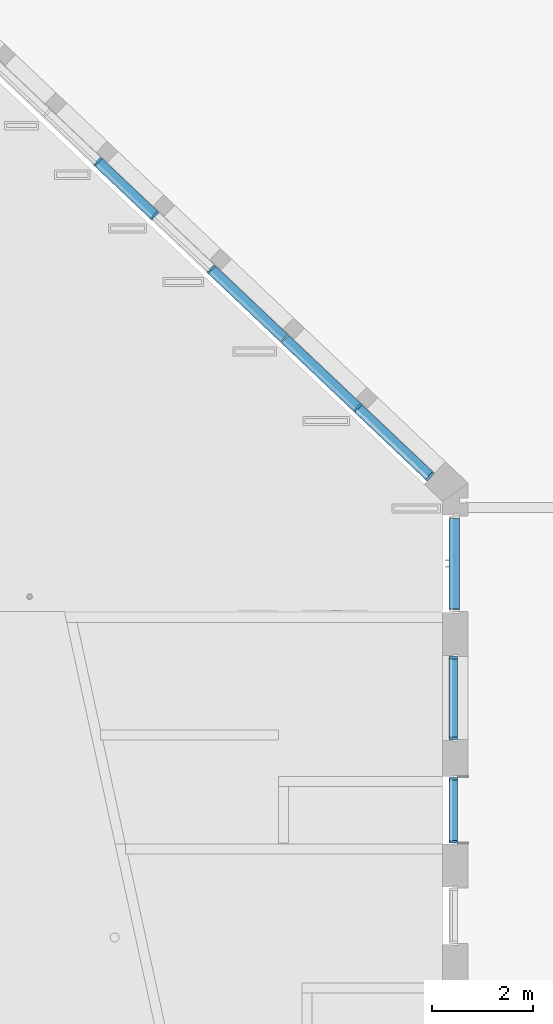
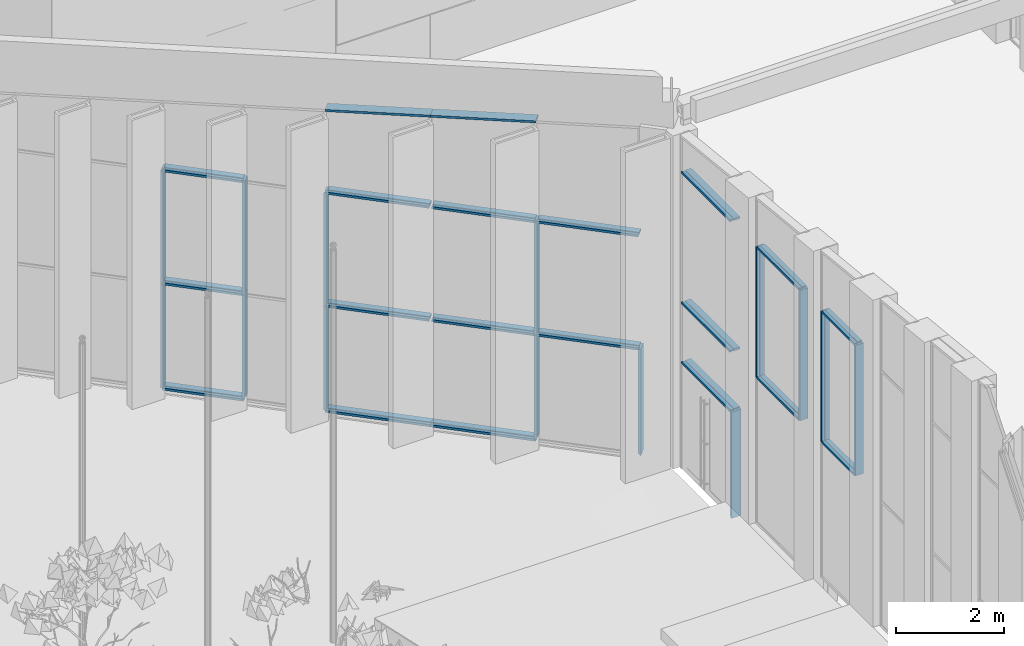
# One storey, part 7 of 246: 34 members, 4 elements without a shape of their own.
"""IFC2X3 building model written with IfcOpenShell, lengths in millimetres."""

from ifc_helpers import new_model, entity, si_unit, converted_unit, derived_unit, money_unit, direction, frame, origin_with_axes, place, context, subcontext, project, spatial, faceted_brep, source, transform, mapped, material, type_object, element, aggregate, save


model = new_model("IFC2X3")

# Units and contexts
model_context = context("Model", 3, precision=0.01, world=origin_with_axes(), true_north=direction((0.0, 1.0)))
body_context = subcontext(model_context, "Body", "Model", "MODEL_VIEW")
ifc_project = project(units=[si_unit("LENGTHUNIT", "METRE", prefix="MILLI"), si_unit("AREAUNIT", "SQUARE_METRE"), si_unit("VOLUMEUNIT", "CUBIC_METRE"), converted_unit("PLANEANGLEUNIT", "DEGREE", entity("IfcPlaneAngleMeasure", 0.0174532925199), si_unit("PLANEANGLEUNIT", "RADIAN"), dimensions=[0, 0, 0, 0, 0, 0, 0]), si_unit("SOLIDANGLEUNIT", "STERADIAN"), money_unit("EUR"), converted_unit("TIMEUNIT", "Year", entity("IfcTimeMeasure", 31556926.0), si_unit("TIMEUNIT", "SECOND"), dimensions=[0, 0, 1, 0, 0, 0, 0]), si_unit("MASSUNIT", "GRAM", prefix="KILO"), si_unit("THERMODYNAMICTEMPERATUREUNIT", "DEGREE_CELSIUS"), si_unit("LUMINOUSINTENSITYUNIT", "LUMEN"), si_unit("ENERGYUNIT", "JOULE", prefix="MEGA"), derived_unit("THERMALCONDUCTANCEUNIT", [(si_unit("POWERUNIT", "WATT"), 1), (si_unit("LENGTHUNIT", "METRE"), -1), (si_unit("THERMODYNAMICTEMPERATUREUNIT", "KELVIN"), -1)]), derived_unit("SPECIFICHEATCAPACITYUNIT", [(si_unit("ENERGYUNIT", "JOULE"), 1), (si_unit("MASSUNIT", "GRAM", prefix="KILO"), -1), (si_unit("THERMODYNAMICTEMPERATUREUNIT", "KELVIN"), -1)]), derived_unit("MASSDENSITYUNIT", [(si_unit("MASSUNIT", "GRAM", prefix="KILO"), 1), (si_unit("VOLUMEUNIT", "CUBIC_METRE"), -1)])], contexts=[model_context])

# Site, building, storey
site_placement = place(None, origin_with_axes())
site = spatial("IfcSite", under=ifc_project, at=site_placement, Name="L.Koidula tn 11b", CompositionType="ELEMENT")
building_placement = place(site_placement, origin_with_axes())
building = spatial("IfcBuilding", under=site, at=building_placement, Name="Rakvere Riigigümnaasium", CompositionType="ELEMENT")
storey_placement = place(building_placement, origin_with_axes())
storey = spatial("IfcBuildingStorey", under=building, at=storey_placement, Name="1.korrus 0,00", CompositionType="ELEMENT", Elevation=0.0)

# Curtain wall, members
curtain_wall_type = type_object("IfcCurtainWallType", Name="Curtain Wall Type", PredefinedType="NOTDEFINED")
curtain_wall_1_placement = place(storey_placement, frame((33997.0353268, 45217.6604975, 0.0), z_axis=(0.0, 0.0, 1.0), x_axis=(1.0, 0.0, 0.0)))
curtain_wall_1 = element("IfcCurtainWall", 1, at=curtain_wall_1_placement, inside=storey, type_object=curtain_wall_type, Name="KLF-02")
ifc_material = material(Name="Alumiiniumprofiil (RAL 7021)")
member_type_1 = type_object("IfcMemberType", Name="Mullion Frame 50 x 210", PredefinedType="MULLION")
shared_shape_1 = source(origin_with_axes(), body_context, "Body", "Brep", [
    faceted_brep([(12.0, -26.0, 2550.0), (12.0, 26.0, 2550.0), (25.0, 26.0, 2550.0), (25.0, 56.0, 2550.0), (-25.0, 56.0, 2550.0), (-25.0, 26.0, 2550.0), (-12.0, 26.0, 2550.0), (-12.0, -26.0, 2550.0), (-25.0, -26.0, 2550.0), (-25.0, -154.0, 2550.0), (25.0, -154.0, 2550.0), (25.0, -26.0, 2550.0), (12.0, -26.0, 0.0), (12.0, 26.0, 0.0), (25.0, 26.0, 0.0), (25.0, 56.0, 0.0), (-25.0, 56.0, 0.0), (-25.0, 26.0, 0.0), (-12.0, 26.0, 0.0), (-12.0, -26.0, 0.0), (-25.0, -26.0, 0.0), (-25.0, -154.0, 0.0), (25.0, -154.0, 0.0), (25.0, -26.0, 0.0)], [[[0, 1, 2, 3, 4, 5, 6, 7, 8, 9, 10, 11]], [[0, 12, 13, 1]], [[1, 13, 14, 2]], [[14, 15, 3, 2]], [[3, 15, 16, 4]], [[17, 5, 4, 16]], [[5, 17, 18, 6]], [[7, 6, 18, 19]], [[8, 7, 19, 20]], [[8, 20, 21, 9]], [[9, 21, 22, 10]], [[11, 10, 22, 23]], [[11, 23, 12, 0]], [[13, 12, 23, 22, 21, 20, 19, 18, 17, 16, 15, 14]]]),
])
member_1_placement = place(curtain_wall_1_placement, frame((-725.960229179, 687.736683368, 2400.00031279), z_axis=(0.0, 0.0, 1.0), x_axis=(0.725960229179, -0.687736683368, 0.0)))
member_1 = element("IfcMember", 2, at=member_1_placement, type_object=member_type_1, material=ifc_material, Name="KLF-07-Profiilid", ObjectType="MULLION", context=body_context, shape_type="MappedRepresentation", body=[
    mapped(shared_shape_1, transform((0.0, 0.0, 0.0), x_axis=(-1.0, 0.0, 0.0), y_axis=(0.0, -1.0, 0.0), z_axis=(0.0, 0.0, 1.0))),
])
member_2_placement = place(curtain_wall_1_placement, frame((-5880.27785635, 5570.66713528, 2400.00031279), z_axis=(0.0, 0.0, 1.0), x_axis=(0.725960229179, -0.687736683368, 0.0)))
member_2 = element("IfcMember", 3, at=member_2_placement, type_object=member_type_1, material=ifc_material, Name="KLF-19-Profiilid", ObjectType="MULLION", context=body_context, shape_type="MappedRepresentation", body=[
    mapped(shared_shape_1, transform((0.0, 0.0, 0.0), x_axis=(-1.0, 0.0, 0.0), y_axis=(0.0, -1.0, 0.0), z_axis=(0.0, 0.0, 1.0))),
])
member_3_placement = place(curtain_wall_1_placement, frame((-4755.03950112, 4504.67527606, 2400.00031279), z_axis=(0.0, 0.0, 1.0), x_axis=(0.725960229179, -0.687736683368, 0.0)))
member_3 = element("IfcMember", 4, at=member_3_placement, type_object=member_type_1, material=ifc_material, Name="KLF-16-Profiilid", ObjectType="MULLION", context=body_context, shape_type="MappedRepresentation", body=[
    mapped(shared_shape_1, transform((0.0, 0.0, 0.0), x_axis=(-1.0, 0.0, 0.0), y_axis=(0.0, -1.0, 0.0), z_axis=(0.0, 0.0, 1.0))),
])
member_4_placement = place(curtain_wall_1_placement, frame((-3629.80114589, 3438.68341684, 2400.00031279), z_axis=(0.0, 0.0, 1.0), x_axis=(0.725960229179, -0.687736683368, 0.0)))
member_4 = element("IfcMember", 5, at=member_4_placement, type_object=member_type_1, material=ifc_material, Name="KLF-13-Profiilid", ObjectType="MULLION", context=body_context, shape_type="MappedRepresentation", body=[
    mapped(shared_shape_1, transform((0.0, 0.0, 0.0), x_axis=(-1.0, 0.0, 0.0), y_axis=(0.0, -1.0, 0.0), z_axis=(0.0, 0.0, 1.0))),
])
shared_shape_2 = source(origin_with_axes(), body_context, "Body", "Brep", [
    faceted_brep([(12.0, -26.0, 2400.00031279), (12.0, 26.0, 2400.00031279), (25.0, 26.0, 2400.00031279), (25.0, 56.0, 2400.00031279), (-25.0, 56.0, 2400.00031279), (-25.0, 26.0, 2400.00031279), (-12.0, 26.0, 2400.00031279), (-12.0, -26.0, 2400.00031279), (-25.0, -26.0, 2400.00031279), (-25.0, -154.0, 2400.00031279), (25.0, -154.0, 2400.00031279), (25.0, -26.0, 2400.00031279), (12.0, -26.0, 50.0), (12.0, 26.0, 50.0), (25.0, 26.0, 50.0), (25.0, 56.0, 50.0), (-25.0, 56.0, 50.0), (-25.0, 26.0, 50.0), (-12.0, 26.0, 50.0), (-12.0, -26.0, 50.0), (-25.0, -26.0, 50.0), (-25.0, -154.0, 50.0), (25.0, -154.0, 50.0), (25.0, -26.0, 50.0)], [[[0, 1, 2, 3, 4, 5, 6, 7, 8, 9, 10, 11]], [[0, 12, 13, 1]], [[1, 13, 14, 2]], [[14, 15, 3, 2]], [[4, 3, 15, 16]], [[17, 5, 4, 16]], [[5, 17, 18, 6]], [[7, 6, 18, 19]], [[8, 7, 19, 20]], [[8, 20, 21, 9]], [[10, 9, 21, 22]], [[11, 10, 22, 23]], [[11, 23, 12, 0]], [[13, 12, 23, 22, 21, 20, 19, 18, 17, 16, 15, 14]]]),
])
member_5_placement = place(curtain_wall_1_placement, frame((-725.960229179, 687.736683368, 0.0), z_axis=(0.0, 0.0, 1.0), x_axis=(0.725960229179, -0.687736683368, 0.0)))
member_5 = element("IfcMember", 6, at=member_5_placement, type_object=member_type_1, material=ifc_material, Name="KLF-06-Profiilid", ObjectType="MULLION", context=body_context, shape_type="MappedRepresentation", body=[
    mapped(shared_shape_2, transform((0.0, 0.0, 0.0), x_axis=(-1.0, 0.0, 0.0), y_axis=(0.0, -1.0, 0.0), z_axis=(0.0, 0.0, 1.0))),
])
member_6_placement = place(curtain_wall_1_placement, frame((-5880.27785635, 5570.66713528, 0.0), z_axis=(0.0, 0.0, 1.0), x_axis=(0.725960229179, -0.687736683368, 0.0)))
member_6 = element("IfcMember", 7, at=member_6_placement, type_object=member_type_1, material=ifc_material, Name="KLF-18-Profiilid", ObjectType="MULLION", context=body_context, shape_type="MappedRepresentation", body=[
    mapped(shared_shape_2, transform((0.0, 0.0, 0.0), x_axis=(-1.0, 0.0, 0.0), y_axis=(0.0, -1.0, 0.0), z_axis=(0.0, 0.0, 1.0))),
])
member_7_placement = place(curtain_wall_1_placement, frame((-4755.03950112, 4504.67527606, 0.0), z_axis=(0.0, 0.0, 1.0), x_axis=(0.725960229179, -0.687736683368, 0.0)))
member_7 = element("IfcMember", 8, at=member_7_placement, type_object=member_type_1, material=ifc_material, Name="KLF-15-Profiilid", ObjectType="MULLION", context=body_context, shape_type="MappedRepresentation", body=[
    mapped(shared_shape_2, transform((0.0, 0.0, 0.0), x_axis=(-1.0, 0.0, 0.0), y_axis=(0.0, -1.0, 0.0), z_axis=(0.0, 0.0, 1.0))),
])
member_8_placement = place(curtain_wall_1_placement, frame((-3629.80114589, 3438.68341684, 0.0), z_axis=(0.0, 0.0, 1.0), x_axis=(0.725960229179, -0.687736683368, 0.0)))
member_8 = element("IfcMember", 9, at=member_8_placement, type_object=member_type_1, material=ifc_material, Name="KLF-12-Profiilid", ObjectType="MULLION", context=body_context, shape_type="MappedRepresentation", body=[
    mapped(shared_shape_2, transform((0.0, 0.0, 0.0), x_axis=(-1.0, 0.0, 0.0), y_axis=(0.0, -1.0, 0.0), z_axis=(0.0, 0.0, 1.0))),
])

# Curtain wall, member
curtain_wall_2_placement = place(storey_placement, frame((35166.0871538, 40185.4556279, 444.999899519), z_axis=(0.0, 0.0, 1.0), x_axis=(1.0, 0.0, 0.0)))
curtain_wall_2 = element("IfcCurtainWall", 10, at=curtain_wall_2_placement, inside=storey, type_object=curtain_wall_type, Name="KLF-03-02")
member_type_2 = type_object("IfcMemberType", Name="Boundary Frame 50 x 170", PredefinedType="MULLION")
shared_shape_3 = source(origin_with_axes(), body_context, "Body", "Brep", [
    faceted_brep([(37.0, -26.0, 2945.00000007), (37.0, 26.0, 2945.00000007), (50.0, 26.0, 2945.00000007), (50.0, 46.0, 2945.00000007), (0.0, 46.0, 2945.00000007), (0.0, -124.0, 2945.00000007), (50.0, -124.0, 2945.00000007), (50.0, -26.0, 2945.00000007), (37.0, -26.0, -7.00453028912e-08), (37.0, 26.0, -7.00453028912e-08), (50.0, 26.0, -7.00453028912e-08), (50.0, 46.0, -7.00453028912e-08), (0.0, 46.0, -7.00453028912e-08), (0.0, -124.0, -7.00453028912e-08), (50.0, -124.0, -7.00453028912e-08), (50.0, -26.0, -7.00453028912e-08)], [[[0, 1, 2, 3, 4, 5, 6, 7]], [[1, 0, 8, 9]], [[10, 2, 1, 9]], [[2, 10, 11, 3]], [[12, 4, 3, 11]], [[13, 5, 4, 12]], [[14, 6, 5, 13]], [[15, 7, 6, 14]], [[0, 7, 15, 8]], [[8, 15, 14, 13, 12, 11, 10, 9]]]),
])
member_9_placement = place(curtain_wall_2_placement, frame((0.0, -824.999893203, 3300.00011735), z_axis=(0.0, -2.80181597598e-09, 1.0), x_axis=(0.0, 1.0, 2.80181597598e-09)))
member_9 = element("IfcMember", 11, at=member_9_placement, type_object=member_type_2, material=ifc_material, Name="KLF-03-47-Profiilid", ObjectType="MULLION", context=body_context, shape_type="MappedRepresentation", body=[
    mapped(shared_shape_3, transform((0.0, 0.0, 0.0))),
])

curtain_wall_3_placement = place(storey_placement, frame((35166.0871538, 37960.3285917, 675.278539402), z_axis=(0.0, 0.0, 1.0), x_axis=(1.0, 0.0, 0.0)))
curtain_wall_3 = element("IfcCurtainWall", 12, at=curtain_wall_3_placement, inside=storey, type_object=curtain_wall_type, Name="KLF-03-03")
member_10_placement = place(curtain_wall_3_placement, frame((0.0, -650.126777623, 3070.00015014), z_axis=(0.0, -3.59955014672e-08, 1.0), x_axis=(0.0, 1.0, 3.59955014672e-08)))
member_10 = element("IfcMember", 13, at=member_10_placement, type_object=member_type_2, material=ifc_material, Name="KLF-03-92-Profiilid", ObjectType="MULLION", context=body_context, shape_type="MappedRepresentation", body=[
    mapped(shared_shape_3, transform((0.0, 0.0, 0.0))),
])

# Member
member_type_3 = type_object("IfcMemberType", Name="Transom Frame 50 x 210", PredefinedType="MULLION")
shared_shape_4 = source(origin_with_axes(), body_context, "Body", "Brep", [
    faceted_brep([(12.0, -26.0, 1525.0), (12.0, 26.0, 1525.0), (25.0, 26.0, 1525.0), (25.0, 56.0, 1525.0), (-25.0, 56.0, 1525.0), (-25.0, 26.0, 1525.0), (-12.0, 26.0, 1525.0), (-12.0, -26.0, 1525.0), (-25.0, -26.0, 1525.0), (-25.0, -154.0, 1525.0), (25.0, -154.0, 1525.0), (25.0, -26.0, 1525.0), (12.0, -26.0, 25.0), (12.0, 26.0, 25.0), (25.0, 26.0, 25.0), (25.0, 56.0, 25.0), (-25.0, 56.0, 25.0), (-25.0, 26.0, 25.0), (-12.0, 26.0, 25.0), (-12.0, -26.0, 25.0), (-25.0, -26.0, 25.0), (-25.0, -154.0, 25.0), (25.0, -154.0, 25.0), (25.0, -26.0, 25.0)], [[[0, 1, 2, 3, 4, 5, 6, 7, 8, 9, 10, 11]], [[0, 12, 13, 1]], [[1, 13, 14, 2]], [[14, 15, 3, 2]], [[4, 3, 15, 16]], [[17, 5, 4, 16]], [[5, 17, 18, 6]], [[7, 6, 18, 19]], [[8, 7, 19, 20]], [[8, 20, 21, 9]], [[10, 9, 21, 22]], [[11, 10, 22, 23]], [[11, 23, 12, 0]], [[13, 12, 23, 22, 21, 20, 19, 18, 17, 16, 15, 14]]]),
])
member_11_placement = place(curtain_wall_1_placement, frame((-4755.03950112, 4504.67527606, 4950.00031279), z_axis=(-0.725960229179, 0.687736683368, 0.0), x_axis=(0.0, 0.0, 1.0)))
member_11 = element("IfcMember", 14, at=member_11_placement, type_object=member_type_3, material=ifc_material, Name="KLF-43-Profiilid", ObjectType="MULLION", context=body_context, shape_type="MappedRepresentation", body=[
    mapped(shared_shape_4, transform((0.0, 0.0, 0.0), x_axis=(-1.0, 0.0, 0.0), y_axis=(0.0, -1.0, 0.0), z_axis=(0.0, 0.0, 1.0))),
])

member_12_placement = place(curtain_wall_1_placement, frame((-4755.03950112, 4504.67527606, 2400.00031279), z_axis=(-0.725960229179, 0.687736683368, 0.0), x_axis=(0.0, 0.0, 1.0)))
member_12 = element("IfcMember", 15, at=member_12_placement, type_object=member_type_3, material=ifc_material, Name="KLF-25-Profiilid", ObjectType="MULLION", context=body_context, shape_type="MappedRepresentation", body=[
    mapped(shared_shape_4, transform((0.0, 0.0, 0.0), x_axis=(-1.0, 0.0, 0.0), y_axis=(0.0, -1.0, 0.0), z_axis=(0.0, 0.0, 1.0))),
])

shared_shape_5 = source(origin_with_axes(), body_context, "Body", "Brep", [
    faceted_brep([(12.0, -26.0, 1975.0), (12.0, 26.0, 1975.0), (25.0, 26.0, 1975.0), (25.0, 56.0, 1975.0), (-25.0, 56.0, 1975.0), (-25.0, 26.0, 1975.0), (-12.0, 26.0, 1975.0), (-12.0, -26.0, 1975.0), (-25.0, -26.0, 1975.0), (-25.0, -154.0, 1975.0), (25.0, -154.0, 1975.0), (25.0, -26.0, 1975.0), (12.0, -26.0, 25.0), (12.0, 26.0, 25.0), (25.0, 26.0, 25.0), (25.0, 56.0, 25.0), (-25.0, 56.0, 25.0), (-25.0, 26.0, 25.0), (-12.0, 26.0, 25.0), (-12.0, -26.0, 25.0), (-25.0, -26.0, 25.0), (-25.0, -154.0, 25.0), (25.0, -154.0, 25.0), (25.0, -26.0, 25.0)], [[[0, 1, 2, 3, 4, 5, 6, 7, 8, 9, 10, 11]], [[0, 12, 13, 1]], [[1, 13, 14, 2]], [[14, 15, 3, 2]], [[4, 3, 15, 16]], [[17, 5, 4, 16]], [[5, 17, 18, 6]], [[7, 6, 18, 19]], [[8, 7, 19, 20]], [[8, 20, 21, 9]], [[10, 9, 21, 22]], [[11, 10, 22, 23]], [[11, 23, 12, 0]], [[13, 12, 23, 22, 21, 20, 19, 18, 17, 16, 15, 14]]]),
])
member_13_placement = place(curtain_wall_1_placement, frame((-2177.88068754, 2063.21005011, 4950.00031279), z_axis=(-0.725960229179, 0.687736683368, 0.0), x_axis=(0.0, 0.0, 1.0)))
member_13 = element("IfcMember", 16, at=member_13_placement, type_object=member_type_3, material=ifc_material, Name="KLF-41-Profiilid", ObjectType="MULLION", context=body_context, shape_type="MappedRepresentation", body=[
    mapped(shared_shape_5, transform((0.0, 0.0, 0.0), x_axis=(-1.0, 0.0, 0.0), y_axis=(0.0, -1.0, 0.0), z_axis=(0.0, 0.0, 1.0))),
])

member_14_placement = place(curtain_wall_1_placement, frame((-725.960229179, 687.736683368, 4950.00031279), z_axis=(-0.725960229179, 0.687736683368, 0.0), x_axis=(0.0, 0.0, 1.0)))
member_14 = element("IfcMember", 17, at=member_14_placement, type_object=member_type_3, material=ifc_material, Name="KLF-40-Profiilid", ObjectType="MULLION", context=body_context, shape_type="MappedRepresentation", body=[
    mapped(shared_shape_5, transform((0.0, 0.0, 0.0), x_axis=(-1.0, 0.0, 0.0), y_axis=(0.0, -1.0, 0.0), z_axis=(0.0, 0.0, 1.0))),
])

member_15_placement = place(curtain_wall_1_placement, frame((-2177.88068754, 2063.21005011, 2400.00031279), z_axis=(-0.725960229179, 0.687736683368, 0.0), x_axis=(0.0, 0.0, 1.0)))
member_15 = element("IfcMember", 18, at=member_15_placement, type_object=member_type_3, material=ifc_material, Name="KLF-23-Profiilid", ObjectType="MULLION", context=body_context, shape_type="MappedRepresentation", body=[
    mapped(shared_shape_5, transform((0.0, 0.0, 0.0), x_axis=(-1.0, 0.0, 0.0), y_axis=(0.0, -1.0, 0.0), z_axis=(0.0, 0.0, 1.0))),
])

member_16_placement = place(curtain_wall_1_placement, frame((-725.960229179, 687.736683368, 2400.00031279), z_axis=(-0.725960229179, 0.687736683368, 0.0), x_axis=(0.0, 0.0, 1.0)))
member_16 = element("IfcMember", 19, at=member_16_placement, type_object=member_type_3, material=ifc_material, Name="KLF-22-Profiilid", ObjectType="MULLION", context=body_context, shape_type="MappedRepresentation", body=[
    mapped(shared_shape_5, transform((0.0, 0.0, 0.0), x_axis=(-1.0, 0.0, 0.0), y_axis=(0.0, -1.0, 0.0), z_axis=(0.0, 0.0, 1.0))),
])

# Curtain wall, members
curtain_wall_4_placement = place(storey_placement, frame((35176.0871233, 42850.4555755, -0.000136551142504), z_axis=(0.0, 0.0, 1.0), x_axis=(1.0, 0.0, 0.0)))
curtain_wall_4 = element("IfcCurtainWall", 20, at=curtain_wall_4_placement, inside=storey, type_object=curtain_wall_type, Name="KLF-03-01")
shared_shape_6 = source(origin_with_axes(), body_context, "Body", "Brep", [
    faceted_brep([(-12.0, -26.0, 1849.99983214), (-25.0, -26.0, 1849.99983214), (-25.0, -154.0, 1849.99983214), (25.0, -154.0, 1849.99983214), (25.0, -26.0, 1849.99983214), (12.0, -26.0, 1849.99983214), (12.0, 26.0, 1849.99983214), (25.0, 26.0, 1849.99983214), (25.0, 56.0, 1849.99983214), (-25.0, 56.0, 1849.99983214), (-25.0, 26.0, 1849.99983214), (-12.0, 26.0, 1849.99983214), (-12.0, -26.0, 50.0), (-25.0, -26.0, 50.0), (-25.0, -154.0, 50.0), (25.0, -154.0, 50.0), (25.0, -26.0, 50.0), (12.0, -26.0, 50.0), (12.0, 26.0, 50.0), (25.0, 26.0, 50.0), (25.0, 56.0, 50.0), (-25.0, 56.0, 50.0), (-25.0, 26.0, 50.0), (-12.0, 26.0, 50.0)], [[[0, 1, 2, 3, 4, 5, 6, 7, 8, 9, 10, 11]], [[1, 0, 12, 13]], [[1, 13, 14, 2]], [[2, 14, 15, 3]], [[4, 3, 15, 16]], [[4, 16, 17, 5]], [[5, 17, 18, 6]], [[7, 6, 18, 19]], [[19, 20, 8, 7]], [[8, 20, 21, 9]], [[22, 10, 9, 21]], [[11, 10, 22, 23]], [[0, 11, 23, 12]], [[23, 22, 21, 20, 19, 18, 17, 16, 15, 14, 13, 12]]]),
])
member_17_placement = place(curtain_wall_4_placement, frame((0.0, 949.999916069, 6690.00012036), z_axis=(0.0, -1.0, 0.0), x_axis=(0.0, 0.0, 1.0)))
member_17 = element("IfcMember", 21, at=member_17_placement, type_object=member_type_3, material=ifc_material, Name="KLF-03-01-Profiilid", ObjectType="MULLION", context=body_context, shape_type="MappedRepresentation", body=[
    mapped(shared_shape_6, transform((0.0, 0.0, 0.0))),
])
member_18_placement = place(curtain_wall_4_placement, frame((0.0, 949.999916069, 3745.00012036), z_axis=(0.0, -1.0, 0.0), x_axis=(0.0, 0.0, 1.0)))
member_18 = element("IfcMember", 22, at=member_18_placement, type_object=member_type_3, material=ifc_material, Name="KLF-03-01-Profiilid", ObjectType="MULLION", context=body_context, shape_type="MappedRepresentation", body=[
    mapped(shared_shape_6, transform((0.0, 0.0, 0.0))),
])
member_19_placement = place(curtain_wall_4_placement, frame((0.0, 949.999916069, 2400.00012036), z_axis=(0.0, -1.0, 0.0), x_axis=(0.0, 0.0, 1.0)))
member_19 = element("IfcMember", 23, at=member_19_placement, type_object=member_type_3, material=ifc_material, Name="KLF-03-01-Profiilid", ObjectType="MULLION", context=body_context, shape_type="MappedRepresentation", body=[
    mapped(shared_shape_6, transform((0.0, 0.0, 0.0))),
])

# Member
shared_shape_7 = source(origin_with_axes(), body_context, "Body", "Brep", [
    faceted_brep([(-37.0, -26.0, 2945.0), (-50.0, -26.0, 2945.0), (-50.0, -124.0, 2945.0), (0.0, -124.0, 2945.0), (0.0, 46.0, 2945.0), (-50.0, 46.0, 2945.0), (-50.0, 26.0, 2945.0), (-37.0, 26.0, 2945.0), (-37.0, -26.0, 0.0), (-50.0, -26.0, 0.0), (-50.0, -124.0, 0.0), (0.0, -124.0, 0.0), (0.0, 46.0, 0.0), (-50.0, 46.0, 0.0), (-50.0, 26.0, 0.0), (-37.0, 26.0, 0.0)], [[[0, 1, 2, 3, 4, 5, 6, 7]], [[0, 8, 9, 1]], [[9, 10, 2, 1]], [[10, 11, 3, 2]], [[11, 12, 4, 3]], [[12, 13, 5, 4]], [[6, 5, 13, 14]], [[14, 15, 7, 6]], [[7, 15, 8, 0]], [[8, 15, 14, 13, 12, 11, 10, 9]]]),
])
member_20_placement = place(curtain_wall_2_placement, frame((0.0, 824.999897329, 3300.00011735), z_axis=(0.0, 0.0, 1.0), x_axis=(0.0, 1.0, 0.0)))
member_20 = element("IfcMember", 24, at=member_20_placement, type_object=member_type_2, material=ifc_material, Name="KLF-03-51-Profiilid", ObjectType="MULLION", context=body_context, shape_type="MappedRepresentation", body=[
    mapped(shared_shape_7, transform((0.0, 0.0, 0.0))),
])

member_21_placement = place(curtain_wall_3_placement, frame((0.0, 650.126883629, 3070.00015014), z_axis=(0.0, 0.0, 1.0), x_axis=(0.0, 1.0, 0.0)))
member_21 = element("IfcMember", 25, at=member_21_placement, type_object=member_type_2, material=ifc_material, Name="KLF-03-96-Profiilid", ObjectType="MULLION", context=body_context, shape_type="MappedRepresentation", body=[
    mapped(shared_shape_7, transform((0.0, 0.0, 0.0))),
])

shared_shape_8 = source(origin_with_axes(), body_context, "Body", "Brep", [
    faceted_brep([(12.0, -26.0, 1975.0), (12.0, 26.0, 1975.0), (25.0, 26.0, 1975.0), (25.0, 56.0, 1975.0), (-25.0, 56.0, 1975.0), (-25.0, 26.0, 1975.0), (-12.0, 26.0, 1975.0), (-12.0, -26.0, 1975.0), (-25.0, -26.0, 1975.0), (-25.0, -154.0, 1975.0), (25.0, -154.0, 1975.0), (25.0, -26.0, 1975.0), (12.0, -26.0, 50.0), (12.0, 26.0, 50.0), (25.0, 26.0, 50.0), (25.0, 56.0, 50.0), (-25.0, 56.0, 50.0), (-25.0, 26.0, 50.0), (-12.0, 26.0, 50.0), (-12.0, -26.0, 50.0), (-25.0, -26.0, 50.0), (-25.0, -154.0, 50.0), (25.0, -154.0, 50.0), (25.0, -26.0, 50.0)], [[[0, 1, 2, 3, 4, 5, 6, 7, 8, 9, 10, 11]], [[0, 12, 13, 1]], [[1, 13, 14, 2]], [[14, 15, 3, 2]], [[4, 3, 15, 16]], [[17, 5, 4, 16]], [[5, 17, 18, 6]], [[7, 6, 18, 19]], [[8, 7, 19, 20]], [[8, 20, 21, 9]], [[10, 9, 21, 22]], [[11, 10, 22, 23]], [[11, 23, 12, 0]], [[13, 12, 23, 22, 21, 20, 19, 18, 17, 16, 15, 14]]]),
])
member_22_placement = place(curtain_wall_1_placement, frame((725.960229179, -687.736683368, 4950.00031279), z_axis=(-0.725960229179, 0.687736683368, 0.0), x_axis=(0.0, 0.0, 1.0)))
member_22 = element("IfcMember", 26, at=member_22_placement, type_object=member_type_3, material=ifc_material, Name="KLF-39-Profiilid", ObjectType="MULLION", context=body_context, shape_type="MappedRepresentation", body=[
    mapped(shared_shape_8, transform((0.0, 0.0, 0.0), x_axis=(-1.0, 0.0, 0.0), y_axis=(0.0, -1.0, 0.0), z_axis=(0.0, 0.0, 1.0))),
])

member_23_placement = place(curtain_wall_1_placement, frame((725.960229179, -687.736683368, 2400.00031279), z_axis=(-0.725960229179, 0.687736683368, 0.0), x_axis=(0.0, 0.0, 1.0)))
member_23 = element("IfcMember", 27, at=member_23_placement, type_object=member_type_3, material=ifc_material, Name="KLF-21-Profiilid", ObjectType="MULLION", context=body_context, shape_type="MappedRepresentation", body=[
    mapped(shared_shape_8, transform((0.0, 0.0, 0.0), x_axis=(-1.0, 0.0, 0.0), y_axis=(0.0, -1.0, 0.0), z_axis=(0.0, 0.0, 1.0))),
])

member_type_4 = type_object("IfcMemberType", Name="Boundary Frame 50 x 210", PredefinedType="MULLION")
shared_shape_9 = source(origin_with_axes(), body_context, "Body", "Brep", [
    faceted_brep([(-37.0, -26.0, 1550.0), (-50.0, -26.0, 1550.0), (-50.0, -154.0, 1550.0), (0.0, -154.0, 1550.0), (0.0, 56.0, 1550.0), (-50.0, 56.0, 1550.0), (-50.0, 26.0, 1550.0), (-37.0, 26.0, 1550.0), (-37.0, -26.0, 0.0), (-50.0, -26.0, 0.0), (-50.0, -154.0, 0.0), (0.0, -154.0, 0.0), (0.0, 56.0, 0.0), (-50.0, 56.0, 0.0), (-50.0, 26.0, 0.0), (-37.0, 26.0, 0.0)], [[[0, 1, 2, 3, 4, 5, 6, 7]], [[0, 8, 9, 1]], [[9, 10, 2, 1]], [[10, 11, 3, 2]], [[11, 12, 4, 3]], [[12, 13, 5, 4]], [[6, 5, 13, 14]], [[14, 15, 7, 6]], [[7, 15, 8, 0]], [[8, 15, 14, 13, 12, 11, 10, 9]]]),
])
member_24_placement = place(curtain_wall_1_placement, frame((-4755.03950112, 4504.67527606, 0.0), z_axis=(-0.725960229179, 0.687736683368, 0.0), x_axis=(0.0, 0.0, 1.0)))
member_24 = element("IfcMember", 28, at=member_24_placement, type_object=member_type_4, material=ifc_material, Name="KLF-93-Profiilid", ObjectType="MULLION", context=body_context, shape_type="MappedRepresentation", body=[
    mapped(shared_shape_9, transform((0.0, 0.0, 0.0), x_axis=(-1.0, 0.0, 0.0), y_axis=(0.0, -1.0, 0.0), z_axis=(0.0, 0.0, 1.0))),
])

shared_shape_10 = source(origin_with_axes(), body_context, "Body", "Brep", [
    faceted_brep([(-37.0, -26.0, 2000.0), (-50.0, -26.0, 2000.0), (-50.0, -154.0, 2000.0), (0.0, -154.0, 2000.0), (0.0, 56.0, 2000.0), (-50.0, 56.0, 2000.0), (-50.0, 26.0, 2000.0), (-37.0, 26.0, 2000.0), (-37.0, -26.0, 0.0), (-50.0, -26.0, 0.0), (-50.0, -154.0, 0.0), (0.0, -154.0, 0.0), (0.0, 56.0, 0.0), (-50.0, 56.0, 0.0), (-50.0, 26.0, 0.0), (-37.0, 26.0, 0.0)], [[[0, 1, 2, 3, 4, 5, 6, 7]], [[0, 8, 9, 1]], [[9, 10, 2, 1]], [[10, 11, 3, 2]], [[11, 12, 4, 3]], [[12, 13, 5, 4]], [[6, 5, 13, 14]], [[14, 15, 7, 6]], [[7, 15, 8, 0]], [[8, 15, 14, 13, 12, 11, 10, 9]]]),
])
member_25_placement = place(curtain_wall_1_placement, frame((-2177.88068754, 2063.21005011, 0.0), z_axis=(-0.725960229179, 0.687736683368, 0.0), x_axis=(0.0, 0.0, 1.0)))
member_25 = element("IfcMember", 29, at=member_25_placement, type_object=member_type_4, material=ifc_material, Name="KLF-91-Profiilid", ObjectType="MULLION", context=body_context, shape_type="MappedRepresentation", body=[
    mapped(shared_shape_10, transform((0.0, 0.0, 0.0), x_axis=(-1.0, 0.0, 0.0), y_axis=(0.0, -1.0, 0.0), z_axis=(0.0, 0.0, 1.0))),
])

member_26_placement = place(curtain_wall_1_placement, frame((-725.960229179, 687.736683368, 0.0), z_axis=(-0.725960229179, 0.687736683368, 0.0), x_axis=(0.0, 0.0, 1.0)))
member_26 = element("IfcMember", 30, at=member_26_placement, type_object=member_type_4, material=ifc_material, Name="KLF-90-Profiilid", ObjectType="MULLION", context=body_context, shape_type="MappedRepresentation", body=[
    mapped(shared_shape_10, transform((0.0, 0.0, 0.0), x_axis=(-1.0, 0.0, 0.0), y_axis=(0.0, -1.0, 0.0), z_axis=(0.0, 0.0, 1.0))),
])

shared_shape_11 = source(origin_with_axes(), body_context, "Body", "Brep", [
    faceted_brep([(37.0, -26.0, 2400.00031279), (37.0, 26.0, 2400.00031279), (50.0, 26.0, 2400.00031279), (50.0, 56.0, 2400.00031279), (0.0, 56.0, 2400.00031279), (0.0, -154.0, 2400.00031279), (50.0, -154.0, 2400.00031279), (50.0, -26.0, 2400.00031279), (37.0, -26.0, 37.0), (37.0, 26.0, 37.0), (50.0, 26.0, 50.0), (50.0, 56.0, 50.0), (0.0, 56.0, 0.0), (0.0, -154.0, 0.0), (50.0, -154.0, 50.0), (50.0, -26.0, 50.0)], [[[0, 1, 2, 3, 4, 5, 6, 7]], [[1, 0, 8, 9]], [[10, 2, 1, 9]], [[2, 10, 11, 3]], [[4, 3, 11, 12]], [[5, 4, 12, 13]], [[6, 5, 13, 14]], [[15, 7, 6, 14]], [[0, 7, 15, 8]], [[8, 15, 14, 13, 12, 11, 10, 9]]]),
])
member_27_placement = place(curtain_wall_1_placement, frame((725.960229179, -687.736683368, 0.0), z_axis=(0.0, 0.0, 1.0), x_axis=(0.725960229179, -0.687736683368, 0.0)))
member_27 = element("IfcMember", 31, at=member_27_placement, type_object=member_type_4, material=ifc_material, Name="KLF-29-Profiilid", ObjectType="MULLION", context=body_context, shape_type="MappedRepresentation", body=[
    mapped(shared_shape_11, transform((0.0, 0.0, 0.0), x_axis=(-1.0, 0.0, 0.0), y_axis=(0.0, -1.0, 0.0), z_axis=(0.0, 0.0, 1.0))),
])

member_28_placement = place(curtain_wall_4_placement, frame((0.0, -949.999876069, 0.0), z_axis=(0.0, 0.0, 1.0), x_axis=(0.0, 1.0, 0.0)))
member_28 = element("IfcMember", 32, at=member_28_placement, type_object=member_type_4, material=ifc_material, Name="KLF-03-12-Profiilid", ObjectType="MULLION", context=body_context, shape_type="MappedRepresentation", body=[
    mapped(shared_shape_11, transform((0.0, 0.0, 0.0))),
])

aggregate(curtain_wall_4, [member_17, member_18, member_19, member_28])

shared_shape_12 = source(origin_with_axes(), body_context, "Body", "Brep", [
    faceted_brep([(-37.0, -26.0, 2009.69803771), (-50.0, -26.0, 2009.69803771), (-50.0, -154.0, 2009.69803771), (0.0, -154.0, 2009.69803771), (0.0, 56.0, 2009.69803771), (-50.0, 56.0, 2009.69803771), (-50.0, 26.0, 2009.69803771), (-37.0, 26.0, 2009.69803771), (-37.0, -26.0, 0.0), (-50.0, -26.0, 0.0), (-50.0, -154.0, 0.0), (0.0, -154.0, 0.0), (0.0, 56.0, 0.0), (-50.0, 56.0, 0.0), (-50.0, 26.0, 0.0), (-37.0, 26.0, 0.0)], [[[0, 1, 2, 3, 4, 5, 6, 7]], [[0, 8, 9, 1]], [[9, 10, 2, 1]], [[10, 11, 3, 2]], [[11, 12, 4, 3]], [[12, 13, 5, 4]], [[6, 5, 13, 14]], [[14, 15, 7, 6]], [[7, 15, 8, 0]], [[8, 15, 14, 13, 12, 11, 10, 9]]]),
])
member_29_placement = place(curtain_wall_1_placement, frame((-2177.88068754, 2063.21005011, 7034.97201098), z_axis=(0.722457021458, -0.68441792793, 0.0981221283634), x_axis=(0.0712327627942, -0.0674821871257, -0.995174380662)))
member_29 = element("IfcMember", 33, at=member_29_placement, type_object=member_type_4, material=ifc_material, Name="KLF-25-Profiilid", ObjectType="MULLION", context=body_context, shape_type="MappedRepresentation", body=[
    mapped(shared_shape_12, transform((0.0, 0.0, 0.0), x_axis=(-1.0, 0.0, 0.0), y_axis=(0.0, -1.0, 0.0), z_axis=(0.0, 0.0, 1.0))),
])

member_30_placement = place(curtain_wall_1_placement, frame((-3629.80114589, 3438.68341684, 6837.77616216), z_axis=(0.722457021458, -0.68441792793, 0.0981221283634), x_axis=(0.0712327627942, -0.0674821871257, -0.995174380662)))
member_30 = element("IfcMember", 34, at=member_30_placement, type_object=member_type_4, material=ifc_material, Name="KLF-24-Profiilid", ObjectType="MULLION", context=body_context, shape_type="MappedRepresentation", body=[
    mapped(shared_shape_12, transform((0.0, 0.0, 0.0), x_axis=(-1.0, 0.0, 0.0), y_axis=(0.0, -1.0, 0.0), z_axis=(0.0, 0.0, 1.0))),
])

aggregate(curtain_wall_1, [member_5, member_1, member_2, member_6, member_3, member_7, member_4, member_8, member_11, member_13, member_14, member_22, member_12, member_15, member_16, member_23, member_24, member_25, member_26, member_27, member_29, member_30])

member_type_5 = type_object("IfcMemberType", Name="Transom Frame 50 x 170", PredefinedType="MULLION")
shared_shape_13 = source(origin_with_axes(), body_context, "Body", "Brep", [
    faceted_brep([(-12.0, -26.0, 1599.99979046), (-25.0, -26.0, 1599.99979046), (-25.0, -124.0, 1599.99979018), (25.0, -124.0, 1599.99979018), (25.0, -26.0, 1599.99979046), (12.0, -26.0, 1599.99979046), (12.0, 26.0, 1599.9997906), (25.0, 26.0, 1599.9997906), (25.0, 46.0, 1599.99979066), (-25.0, 46.0, 1599.99979066), (-25.0, 26.0, 1599.9997906), (-12.0, 26.0, 1599.9997906), (-12.0, -26.0, 50.0), (-25.0, -26.0, 50.0), (-25.0, -124.0, 50.0), (25.0, -124.0, 50.0), (25.0, -26.0, 50.0), (12.0, -26.0, 50.0), (12.0, 26.0, 50.0), (25.0, 26.0, 50.0), (25.0, 46.0, 50.0), (-25.0, 46.0, 50.0), (-25.0, 26.0, 50.0), (-12.0, 26.0, 50.0)], [[[0, 1, 2, 3, 4, 5, 6, 7, 8, 9, 10, 11]], [[1, 0, 12, 13]], [[1, 13, 14, 2]], [[2, 14, 15, 3]], [[4, 3, 15, 16]], [[4, 16, 17, 5]], [[5, 17, 18, 6]], [[7, 6, 18, 19]], [[19, 20, 8, 7]], [[8, 20, 21, 9]], [[22, 10, 9, 21]], [[11, 10, 22, 23]], [[0, 11, 23, 12]], [[23, 22, 21, 20, 19, 18, 17, 16, 15, 14, 13, 12]]]),
])
member_31_placement = place(curtain_wall_2_placement, frame((0.0, 824.999897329, 3300.00011735), z_axis=(0.0, -1.0, 0.0), x_axis=(0.0, 0.0, 1.0)))
member_31 = element("IfcMember", 35, at=member_31_placement, type_object=member_type_5, material=ifc_material, Name="KLF-03-02-Profiilid", ObjectType="MULLION", context=body_context, shape_type="MappedRepresentation", body=[
    mapped(shared_shape_13, transform((0.0, 0.0, 0.0))),
])

member_32_placement = place(curtain_wall_2_placement, frame((0.0, 824.999897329, 6245.00011735), z_axis=(0.0, -1.0, 0.0), x_axis=(0.0, 0.0, 1.0)))
member_32 = element("IfcMember", 36, at=member_32_placement, type_object=member_type_5, material=ifc_material, Name="KLF-03-02-Profiilid", ObjectType="MULLION", context=body_context, shape_type="MappedRepresentation", body=[
    mapped(shared_shape_13, transform((0.0, 0.0, 0.0))),
])

aggregate(curtain_wall_2, [member_20, member_31, member_32, member_9])

shared_shape_14 = source(origin_with_axes(), body_context, "Body", "Brep", [
    faceted_brep([(-12.0, -26.0, 1250.25366032), (-25.0, -26.0, 1250.25366032), (-25.0, -124.0, 1250.25365679), (25.0, -124.0, 1250.25365679), (25.0, -26.0, 1250.25366032), (12.0, -26.0, 1250.25366032), (12.0, 26.0, 1250.25366219), (25.0, 26.0, 1250.25366219), (25.0, 46.0, 1250.25366291), (-25.0, 46.0, 1250.25366291), (-25.0, 26.0, 1250.25366219), (-12.0, 26.0, 1250.25366219), (-12.0, -26.0, 50.0), (-25.0, -26.0, 50.0), (-25.0, -124.0, 50.0), (25.0, -124.0, 50.0), (25.0, -26.0, 50.0), (12.0, -26.0, 50.0), (12.0, 26.0, 50.0), (25.0, 26.0, 50.0), (25.0, 46.0, 50.0), (-25.0, 46.0, 50.0), (-25.0, 26.0, 50.0), (-12.0, 26.0, 50.0)], [[[0, 1, 2, 3, 4, 5, 6, 7, 8, 9, 10, 11]], [[1, 0, 12, 13]], [[1, 13, 14, 2]], [[2, 14, 15, 3]], [[4, 3, 15, 16]], [[4, 16, 17, 5]], [[5, 17, 18, 6]], [[7, 6, 18, 19]], [[19, 20, 8, 7]], [[8, 20, 21, 9]], [[22, 10, 9, 21]], [[11, 10, 22, 23]], [[0, 11, 23, 12]], [[23, 22, 21, 20, 19, 18, 17, 16, 15, 14, 13, 12]]]),
])
member_33_placement = place(curtain_wall_3_placement, frame((0.0, 650.126883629, 3070.00015014), z_axis=(0.0, -1.0, 0.0), x_axis=(0.0, 0.0, 1.0)))
member_33 = element("IfcMember", 37, at=member_33_placement, type_object=member_type_5, material=ifc_material, Name="KLF-03-39-Profiilid", ObjectType="MULLION", context=body_context, shape_type="MappedRepresentation", body=[
    mapped(shared_shape_14, transform((0.0, 0.0, 0.0))),
])

member_34_placement = place(curtain_wall_3_placement, frame((0.0, 650.126883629, 6015.00015014), z_axis=(0.0, -1.0, 0.0), x_axis=(0.0, 0.0, 1.0)))
member_34 = element("IfcMember", 38, at=member_34_placement, type_object=member_type_5, material=ifc_material, Name="KLF-03-41-Profiilid", ObjectType="MULLION", context=body_context, shape_type="MappedRepresentation", body=[
    mapped(shared_shape_14, transform((0.0, 0.0, 0.0))),
])

aggregate(curtain_wall_3, [member_21, member_33, member_34, member_10])

save(model, "model.ifc")
